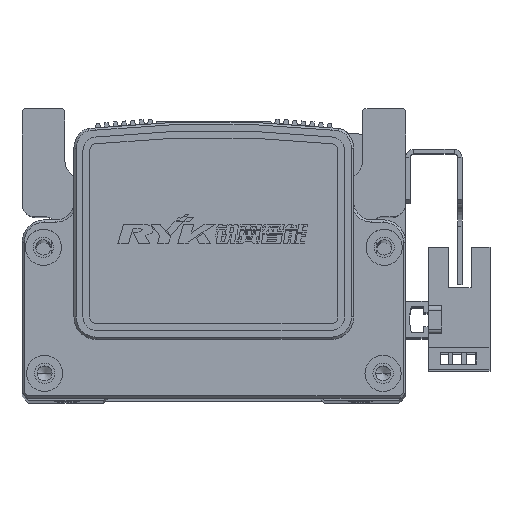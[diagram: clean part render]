
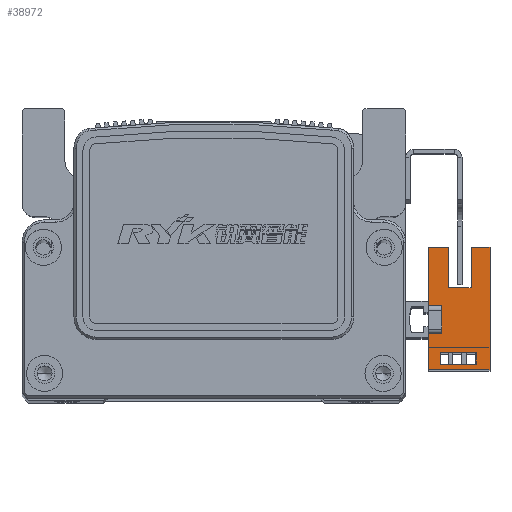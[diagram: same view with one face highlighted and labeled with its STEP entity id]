
A CAD part, top view. The second image highlights one B-rep face of the part: STEP entity #38972.
In plain terms, the highlighted planar face has unit normal (0, 0, 1) as drawn and (1, 0, 0) by its records, which use the part's own axes.
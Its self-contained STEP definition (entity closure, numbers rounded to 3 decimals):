
#435 = VECTOR ( 'NONE', #32782, 1000. ) ;
#439 = LINE ( 'NONE', #32646, #435 ) ;
#543 = VECTOR ( 'NONE', #32775, 1000. ) ;
#550 = LINE ( 'NONE', #32841, #543 ) ;
#561 = VECTOR ( 'NONE', #32982, 1000. ) ;
#565 = LINE ( 'NONE', #32963, #561 ) ;
#3159 = LINE ( 'NONE', #33067, #3183 ) ;
#3183 = VECTOR ( 'NONE', #33038, 1000. ) ;
#3198 = LINE ( 'NONE', #33061, #3230 ) ;
#3201 = LINE ( 'NONE', #33100, #3261 ) ;
#3227 = LINE ( 'NONE', #33047, #3228 ) ;
#3228 = VECTOR ( 'NONE', #33066, 1000. ) ;
#3230 = VECTOR ( 'NONE', #33071, 1000. ) ;
#3261 = VECTOR ( 'NONE', #33101, 1000. ) ;
#3289 = LINE ( 'NONE', #33168, #3333 ) ;
#3301 = LINE ( 'NONE', #33157, #3326 ) ;
#3326 = VECTOR ( 'NONE', #33165, 1000. ) ;
#3333 = VECTOR ( 'NONE', #33176, 1000. ) ;
#3334 = LINE ( 'NONE', #33114, #3361 ) ;
#3361 = VECTOR ( 'NONE', #33119, 1000. ) ;
#10322 = DIRECTION ( 'NONE',  ( 0., 1., 0. ) ) ;
#10342 = DIRECTION ( 'NONE',  ( 1., 0., 0. ) ) ;
#10343 = PLANE ( 'NONE',  #20705 ) ;
#10344 = CARTESIAN_POINT ( 'NONE',  ( 3.2, 16.1, -10.7 ) ) ;
#12646 = EDGE_CURVE ( 'NONE', #32039, #31955, #31565, .T. ) ;
#12728 = EDGE_CURVE ( 'NONE', #31929, #31897, #439, .T. ) ;
#12755 = EDGE_CURVE ( 'NONE', #31843, #31937, #550, .T. ) ;
#12821 = EDGE_CURVE ( 'NONE', #32045, #31961, #565, .T. ) ;
#12900 = EDGE_CURVE ( 'NONE', #32063, #31929, #3159, .T. ) ;
#12913 = EDGE_CURVE ( 'NONE', #31897, #32045, #3227, .T. ) ;
#12924 = EDGE_CURVE ( 'NONE', #31963, #32087, #3198, .T. ) ;
#12935 = EDGE_CURVE ( 'NONE', #32087, #32005, #3201, .T. ) ;
#12986 = EDGE_CURVE ( 'NONE', #31961, #31843, #3334, .T. ) ;
#13008 = EDGE_CURVE ( 'NONE', #31955, #31963, #3301, .T. ) ;
#13029 = EDGE_CURVE ( 'NONE', #32091, #32007, #3289, .T. ) ;
#16637 = FACE_OUTER_BOUND ( 'NONE', #24618, .T. ) ;
#16661 = FACE_BOUND ( 'NONE', #24625, .T. ) ;
#20705 = AXIS2_PLACEMENT_3D ( 'NONE', #10344, #10342, #10322 ) ;
#22973 = VECTOR ( 'NONE', #30521, 1000. ) ;
#23274 = LINE ( 'NONE', #30531, #23913 ) ;
#23913 = VECTOR ( 'NONE', #30523, 1000. ) ;
#24059 = LINE ( 'NONE', #30516, #24248 ) ;
#24239 = LINE ( 'NONE', #30464, #24242 ) ;
#24242 = VECTOR ( 'NONE', #30465, 1000. ) ;
#24248 = VECTOR ( 'NONE', #30524, 1000. ) ;
#24282 = LINE ( 'NONE', #30470, #24292 ) ;
#24292 = VECTOR ( 'NONE', #30482, 1000. ) ;
#24305 = LINE ( 'NONE', #30498, #22973 ) ;
#24618 = EDGE_LOOP ( 'NONE', ( #26854, #26911, #26947, #26932, #26878, #26898, #26863, #26902, #26861, #26934, #26915, #26901 ) ) ;
#24625 = EDGE_LOOP ( 'NONE', ( #26885, #26906, #26908, #26873 ) ) ;
#26854 = ORIENTED_EDGE ( 'NONE', *, *, #13008, .T. ) ;
#26861 = ORIENTED_EDGE ( 'NONE', *, *, #12728, .F. ) ;
#26863 = ORIENTED_EDGE ( 'NONE', *, *, #12821, .F. ) ;
#26873 = ORIENTED_EDGE ( 'NONE', *, *, #13029, .F. ) ;
#26878 = ORIENTED_EDGE ( 'NONE', *, *, #12755, .F. ) ;
#26885 = ORIENTED_EDGE ( 'NONE', *, *, #42272, .F. ) ;
#26898 = ORIENTED_EDGE ( 'NONE', *, *, #12986, .F. ) ;
#26901 = ORIENTED_EDGE ( 'NONE', *, *, #12646, .T. ) ;
#26902 = ORIENTED_EDGE ( 'NONE', *, *, #12913, .F. ) ;
#26906 = ORIENTED_EDGE ( 'NONE', *, *, #42270, .F. ) ;
#26908 = ORIENTED_EDGE ( 'NONE', *, *, #42260, .F. ) ;
#26911 = ORIENTED_EDGE ( 'NONE', *, *, #12924, .T. ) ;
#26915 = ORIENTED_EDGE ( 'NONE', *, *, #42271, .T. ) ;
#26932 = ORIENTED_EDGE ( 'NONE', *, *, #42255, .T. ) ;
#26934 = ORIENTED_EDGE ( 'NONE', *, *, #12900, .F. ) ;
#26947 = ORIENTED_EDGE ( 'NONE', *, *, #12935, .T. ) ;
#30464 = CARTESIAN_POINT ( 'NONE',  ( 3.2, 16.1, -10.7 ) ) ;
#30465 = DIRECTION ( 'NONE',  ( 0., 0., 1. ) ) ;
#30470 = CARTESIAN_POINT ( 'NONE',  ( 3.2, 16.1, -7.7 ) ) ;
#30482 = DIRECTION ( 'NONE',  ( 0., 1., 0. ) ) ;
#30498 = CARTESIAN_POINT ( 'NONE',  ( 3.2, 16.1, -10.7 ) ) ;
#30516 = CARTESIAN_POINT ( 'NONE',  ( 3.2, -7.33, -10.7 ) ) ;
#30521 = DIRECTION ( 'NONE',  ( 0., 1., 0. ) ) ;
#30523 = DIRECTION ( 'NONE',  ( 0., -1., 0. ) ) ;
#30524 = DIRECTION ( 'NONE',  ( 0., 0., 1. ) ) ;
#30531 = CARTESIAN_POINT ( 'NONE',  ( 3.2, 16.1, 0.3 ) ) ;
#31565 = LINE ( 'NONE', #32399, #31573 ) ;
#31573 = VECTOR ( 'NONE', #32517, 1000. ) ;
#31843 = VERTEX_POINT ( 'NONE', #33449 ) ;
#31897 = VERTEX_POINT ( 'NONE', #33446 ) ;
#31929 = VERTEX_POINT ( 'NONE', #33486 ) ;
#31937 = VERTEX_POINT ( 'NONE', #33471 ) ;
#31955 = VERTEX_POINT ( 'NONE', #33485 ) ;
#31961 = VERTEX_POINT ( 'NONE', #33503 ) ;
#31963 = VERTEX_POINT ( 'NONE', #33498 ) ;
#31969 = VERTEX_POINT ( 'NONE', #33499 ) ;
#32001 = VERTEX_POINT ( 'NONE', #33517 ) ;
#32005 = VERTEX_POINT ( 'NONE', #33516 ) ;
#32007 = VERTEX_POINT ( 'NONE', #33505 ) ;
#32039 = VERTEX_POINT ( 'NONE', #33547 ) ;
#32045 = VERTEX_POINT ( 'NONE', #33551 ) ;
#32063 = VERTEX_POINT ( 'NONE', #33529 ) ;
#32087 = VERTEX_POINT ( 'NONE', #33561 ) ;
#32091 = VERTEX_POINT ( 'NONE', #33567 ) ;
#32399 = CARTESIAN_POINT ( 'NONE',  ( 3.2, 16.1, -10.7 ) ) ;
#32517 = DIRECTION ( 'NONE',  ( 0., 0., 1. ) ) ;
#32646 = CARTESIAN_POINT ( 'NONE',  ( 3.2, 16.1, 3. ) ) ;
#32775 = DIRECTION ( 'NONE',  ( 0., 1., 0. ) ) ;
#32782 = DIRECTION ( 'NONE',  ( 0., 1., 0. ) ) ;
#32841 = CARTESIAN_POINT ( 'NONE',  ( 3.2, 16.1, 3. ) ) ;
#32963 = CARTESIAN_POINT ( 'NONE',  ( 3.2, 0., 0. ) ) ;
#32982 = DIRECTION ( 'NONE',  ( 0., 1., 0. ) ) ;
#33038 = DIRECTION ( 'NONE',  ( 0., 0., 1. ) ) ;
#33047 = CARTESIAN_POINT ( 'NONE',  ( 3.2, -3.1, 3. ) ) ;
#33061 = CARTESIAN_POINT ( 'NONE',  ( 3.2, 7.1, -6.5 ) ) ;
#33066 = DIRECTION ( 'NONE',  ( 0., 0., -1. ) ) ;
#33067 = CARTESIAN_POINT ( 'NONE',  ( 3.2, -11.1, 3. ) ) ;
#33071 = DIRECTION ( 'NONE',  ( 0., 0., 1. ) ) ;
#33100 = CARTESIAN_POINT ( 'NONE',  ( 3.2, 25.1, -1.5 ) ) ;
#33101 = DIRECTION ( 'NONE',  ( 0., 1., 0. ) ) ;
#33114 = CARTESIAN_POINT ( 'NONE',  ( 3.2, 3.1, 3. ) ) ;
#33119 = DIRECTION ( 'NONE',  ( 0., 0., 1. ) ) ;
#33157 = CARTESIAN_POINT ( 'NONE',  ( 3.2, 25.1, -6.5 ) ) ;
#33165 = DIRECTION ( 'NONE',  ( 0., -1., 0. ) ) ;
#33168 = CARTESIAN_POINT ( 'NONE',  ( 3.2, -9.83, -10.7 ) ) ;
#33176 = DIRECTION ( 'NONE',  ( 0., 0., -1. ) ) ;
#33446 = CARTESIAN_POINT ( 'NONE',  ( 3.2, -3.1, 3. ) ) ;
#33449 = CARTESIAN_POINT ( 'NONE',  ( 3.2, 3.1, 3. ) ) ;
#33471 = CARTESIAN_POINT ( 'NONE',  ( 3.2, 16.1, 3. ) ) ;
#33485 = CARTESIAN_POINT ( 'NONE',  ( 3.2, 16.1, -6.5 ) ) ;
#33486 = CARTESIAN_POINT ( 'NONE',  ( 3.2, -11.1, 3. ) ) ;
#33498 = CARTESIAN_POINT ( 'NONE',  ( 3.2, 7.1, -6.5 ) ) ;
#33499 = CARTESIAN_POINT ( 'NONE',  ( 3.2, -7.33, -7.7 ) ) ;
#33503 = CARTESIAN_POINT ( 'NONE',  ( 3.2, 3.1, 0. ) ) ;
#33505 = CARTESIAN_POINT ( 'NONE',  ( 3.2, -9.83, -7.7 ) ) ;
#33516 = CARTESIAN_POINT ( 'NONE',  ( 3.2, 16.1, -1.5 ) ) ;
#33517 = CARTESIAN_POINT ( 'NONE',  ( 3.2, -7.33, 0.3 ) ) ;
#33529 = CARTESIAN_POINT ( 'NONE',  ( 3.2, -11.1, -10.7 ) ) ;
#33547 = CARTESIAN_POINT ( 'NONE',  ( 3.2, 16.1, -10.7 ) ) ;
#33551 = CARTESIAN_POINT ( 'NONE',  ( 3.2, -3.1, 0. ) ) ;
#33561 = CARTESIAN_POINT ( 'NONE',  ( 3.2, 7.1, -1.5 ) ) ;
#33567 = CARTESIAN_POINT ( 'NONE',  ( 3.2, -9.83, 0.3 ) ) ;
#38972 = ADVANCED_FACE ( 'NONE', ( #16637, #16661 ), #10343, .T. ) ;
#42255 = EDGE_CURVE ( 'NONE', #32005, #31937, #24239, .T. ) ;
#42260 = EDGE_CURVE ( 'NONE', #32007, #31969, #24282, .T. ) ;
#42270 = EDGE_CURVE ( 'NONE', #31969, #32001, #24059, .T. ) ;
#42271 = EDGE_CURVE ( 'NONE', #32063, #32039, #24305, .T. ) ;
#42272 = EDGE_CURVE ( 'NONE', #32001, #32091, #23274, .T. ) ;
